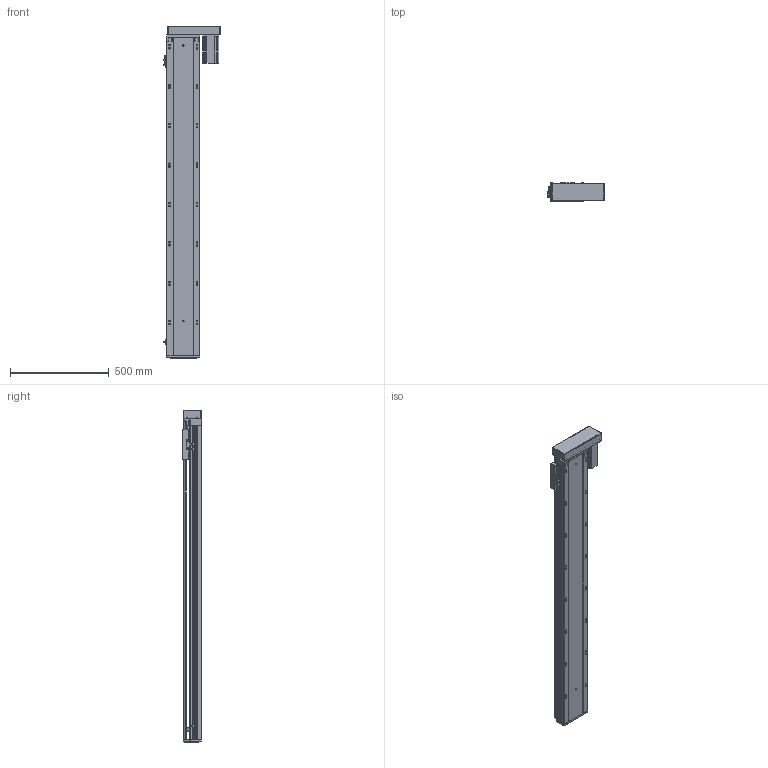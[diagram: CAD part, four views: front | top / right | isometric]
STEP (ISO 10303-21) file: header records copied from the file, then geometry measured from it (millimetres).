
FILE_DESCRIPTION (( 'STEP AP203' ), '1' );
FILE_NAME ('RY170-L2510-1400-RK.SLDASM_1350.step', '2021-03-12T09:37:45', ( '盈信电脑' ), ( '东莞市道滘镇水果街19号' ), 'SwSTEP 2.0', 'SolidWorks 2012', '' );
FILE_SCHEMA (( 'CONFIG_CONTROL_DESIGN' ));
Length unit declared in the file: millimetre
Products named in the file (13): RY170外置感应片(200共用）; 覜茼ん672; RY170-L2510-1400-RK.SLDASM_1350; RY170-左右折电机安装板750W; RY170-酘衵殏750W萇儂傷; 怢湛750W萇儂ㄗ80遺ㄘ; RY170酘衵殏萇儂欶750W; RY170转折电机端支撑座(7004); 滅袉蝶18-20; RY170綴裔啣; 改造-RY170铝滑块25丝杆螺母; RY170-1400倰第菁釱-LK_1350; RY170-1400倰第裔啣-LK_1350
Assembly tree (15 placements, depth 3):
  RY170-L2510-1400-RK.SLDASM_1350
    RY170-1400倰第菁釱-LK_1350
    改造-RY170铝滑块25丝杆螺母
    RY170-1400倰第裔啣-LK_1350
    RY170綴裔啣
    滅袉蝶18-20  x2
    RY170转折电机端支撑座(7004)
    RY170-酘衵殏750W萇儂傷
      RY170-左右折电机安装板750W
      RY170酘衵殏萇儂欶750W
      怢湛750W萇儂ㄗ80遺ㄘ
    覜茼ん672  x3
    RY170外置感应片(200共用）
Bounding box: 286.2 x 97 x 1685 mm (x, y, z)
Volume: 8803743.1 mm3; surface area: 2813564.3 mm2
Topology: 14 solids, 14 shells, 2269 faces, 6498 edges, 4152 vertices
Faces by surface type: plane 1090, cylinder 950, cone 210, bspline 19
Entity records: 73026 total; most frequent: CARTESIAN_POINT 17573, ORIENTED_EDGE 11632, DIRECTION 10808, EDGE_CURVE 5816, VERTEX_POINT 3820, AXIS2_PLACEMENT_3D 3625, LINE 3558, VECTOR 3558
